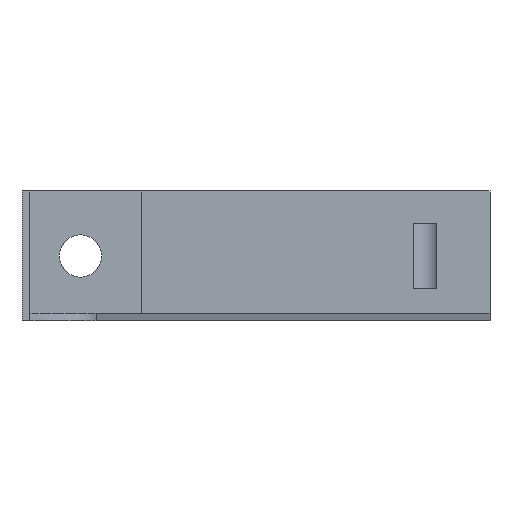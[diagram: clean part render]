
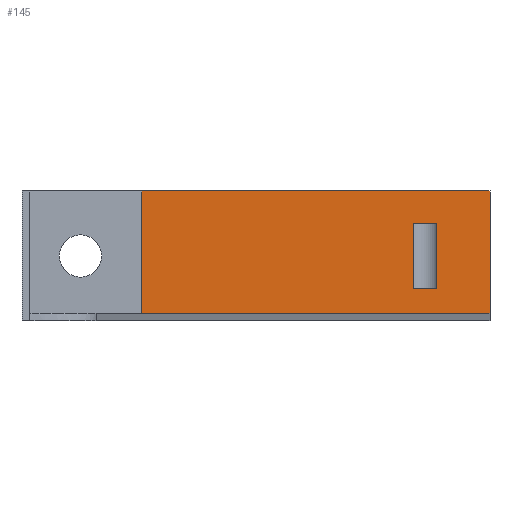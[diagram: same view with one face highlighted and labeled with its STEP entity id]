
A CAD part, left-side view. The second image highlights one B-rep face of the part: STEP entity #145.
In plain terms, the highlighted planar face has unit normal (-1, 0, 0).
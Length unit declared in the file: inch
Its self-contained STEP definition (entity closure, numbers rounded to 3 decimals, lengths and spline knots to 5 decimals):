
#145=ADVANCED_FACE('',(#325,#326),#327,.T.);
#325=FACE_OUTER_BOUND('',#690,.T.);
#326=FACE_BOUND('',#691,.T.);
#327=PLANE('',#692);
#690=EDGE_LOOP('',(#1208,#1209,#1210,#1211));
#691=EDGE_LOOP('',(#1212,#1213,#1214,#1215));
#692=AXIS2_PLACEMENT_3D('',#1216,#1217,#1218);
#1208=ORIENTED_EDGE('',*,*,#1618,.T.);
#1209=ORIENTED_EDGE('',*,*,#1619,.T.);
#1210=ORIENTED_EDGE('',*,*,#1549,.T.);
#1211=ORIENTED_EDGE('',*,*,#1600,.F.);
#1212=ORIENTED_EDGE('',*,*,#1579,.T.);
#1213=ORIENTED_EDGE('',*,*,#1620,.T.);
#1214=ORIENTED_EDGE('',*,*,#1518,.T.);
#1215=ORIENTED_EDGE('',*,*,#1621,.T.);
#1216=CARTESIAN_POINT('',(10.0987,-0.78516,0.0));
#1217=DIRECTION('',(-1.0,-0.0,0.0));
#1218=DIRECTION('',(0.0,-1.0,-0.0));
#1518=EDGE_CURVE('',#1811,#1809,#1812,.T.);
#1549=EDGE_CURVE('',#1861,#1859,#1862,.T.);
#1579=EDGE_CURVE('',#1907,#1905,#1908,.T.);
#1600=EDGE_CURVE('',#1936,#1859,#1938,.T.);
#1618=EDGE_CURVE('',#1936,#1960,#1961,.T.);
#1619=EDGE_CURVE('',#1960,#1861,#1962,.T.);
#1620=EDGE_CURVE('',#1905,#1811,#1963,.T.);
#1621=EDGE_CURVE('',#1809,#1907,#1964,.T.);
#1809=VERTEX_POINT('',#2285);
#1811=VERTEX_POINT('',#2288);
#1812=LINE('',#2289,#2290);
#1859=VERTEX_POINT('',#2376);
#1861=VERTEX_POINT('',#2379);
#1862=LINE('',#2380,#2381);
#1905=VERTEX_POINT('',#2459);
#1907=VERTEX_POINT('',#2462);
#1908=LINE('',#2463,#2464);
#1936=VERTEX_POINT('',#2517);
#1938=LINE('',#2520,#2521);
#1960=VERTEX_POINT('',#2561);
#1961=LINE('',#2562,#2563);
#1962=LINE('',#2564,#2565);
#1963=LINE('',#2566,#2567);
#1964=LINE('',#2568,#2569);
#2285=CARTESIAN_POINT('',(10.0987,-1.72063,0.9375));
#2288=CARTESIAN_POINT('',(10.0987,-1.72063,0.3125));
#2289=CARTESIAN_POINT('',(10.0987,-1.72063,0.3125));
#2290=VECTOR('',#2767,1.0);
#2376=CARTESIAN_POINT('',(10.0987,0.88984,1.25));
#2379=CARTESIAN_POINT('',(10.0987,-2.46016,1.25));
#2380=CARTESIAN_POINT('',(10.0987,-2.46016,1.25));
#2381=VECTOR('',#2784,1.0);
#2459=CARTESIAN_POINT('',(10.0987,-1.94974,0.3125));
#2462=CARTESIAN_POINT('',(10.0987,-1.94974,0.9375));
#2463=CARTESIAN_POINT('',(10.0987,-1.94974,0.3125));
#2464=VECTOR('',#2800,1.0);
#2517=CARTESIAN_POINT('',(10.0987,0.88984,0.075));
#2520=CARTESIAN_POINT('',(10.0987,0.88984,0.0));
#2521=VECTOR('',#2809,1.0);
#2561=CARTESIAN_POINT('',(10.0987,-2.46016,0.075));
#2562=CARTESIAN_POINT('',(10.0987,-2.46016,0.075));
#2563=VECTOR('',#2822,1.0);
#2564=CARTESIAN_POINT('',(10.0987,-2.46016,0.0));
#2565=VECTOR('',#2823,1.0);
#2566=CARTESIAN_POINT('',(10.0987,-1.31017,0.3125));
#2567=VECTOR('',#2824,1.0);
#2568=CARTESIAN_POINT('',(10.0987,-1.31017,0.9375));
#2569=VECTOR('',#2825,1.0);
#2767=DIRECTION('',(0.0,0.0,1.0));
#2784=DIRECTION('',(0.0,1.0,0.0));
#2800=DIRECTION('',(0.0,0.0,-1.0));
#2809=DIRECTION('',(0.0,0.0,1.0));
#2822=DIRECTION('',(-0.0,-1.0,-0.0));
#2823=DIRECTION('',(0.0,0.0,1.0));
#2824=DIRECTION('',(0.0,1.0,0.0));
#2825=DIRECTION('',(0.0,-1.0,0.0));
